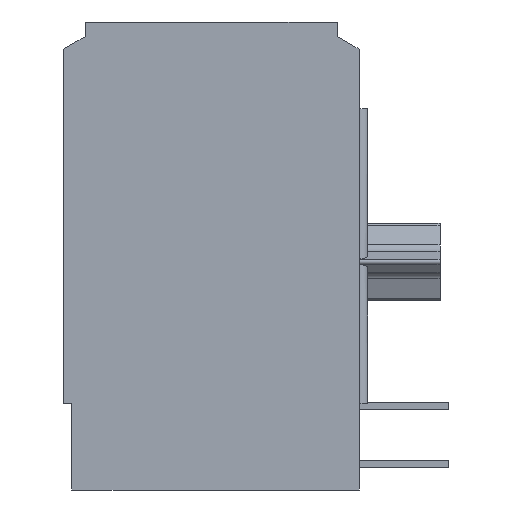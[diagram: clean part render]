
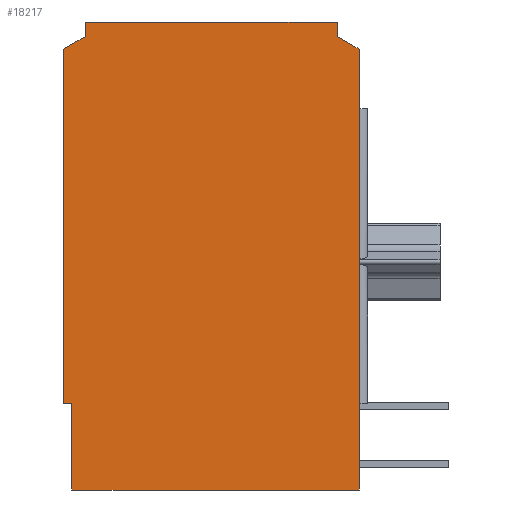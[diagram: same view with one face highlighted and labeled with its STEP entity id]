
A CAD part, left-side view. The second image highlights one B-rep face of the part: STEP entity #18217.
In plain terms, the highlighted planar face has unit normal (-1, 0, 0).
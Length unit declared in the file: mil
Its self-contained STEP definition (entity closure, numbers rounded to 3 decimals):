
#83 = DIRECTION ( 'NONE',  ( 0., 0., -1. ) ) ;
#84 = VECTOR ( 'NONE', #83, 39370.079 ) ;
#85 = CARTESIAN_POINT ( 'NONE',  ( -1150., 53., 0. ) ) ;
#86 = LINE ( 'NONE', #85, #84 ) ;
#87 = CARTESIAN_POINT ( 'NONE',  ( -1150., 53., 0. ) ) ;
#97 = CARTESIAN_POINT ( 'NONE',  ( -1150., 53., -25. ) ) ;
#145 = DIRECTION ( 'NONE',  ( 0., 0., 1. ) ) ;
#146 = VECTOR ( 'NONE', #145, 39370.079 ) ;
#147 = CARTESIAN_POINT ( 'NONE',  ( -1150., 527., 0. ) ) ;
#148 = LINE ( 'NONE', #147, #146 ) ;
#169 = DIRECTION ( 'NONE',  ( 0., -1., 0. ) ) ;
#170 = VECTOR ( 'NONE', #169, 39370.079 ) ;
#171 = CARTESIAN_POINT ( 'NONE',  ( -1150., 271., 0. ) ) ;
#172 = LINE ( 'NONE', #171, #170 ) ;
#244 = DIRECTION ( 'NONE',  ( 0., 0., 1. ) ) ;
#245 = VECTOR ( 'NONE', #244, 39370.079 ) ;
#246 = CARTESIAN_POINT ( 'NONE',  ( -1150., 512., 0. ) ) ;
#247 = LINE ( 'NONE', #246, #245 ) ;
#249 = CARTESIAN_POINT ( 'NONE',  ( -1150., 512., -810. ) ) ;
#3725 = CARTESIAN_POINT ( 'NONE',  ( -1150., 15., -810. ) ) ;
#3755 = DIRECTION ( 'NONE',  ( 0., 0., -1. ) ) ;
#3756 = DIRECTION ( 'NONE',  ( 1., 0., 0. ) ) ;
#3757 = CARTESIAN_POINT ( 'NONE',  ( -1150., 271., 0. ) ) ;
#3759 = AXIS2_PLACEMENT_3D ( 'NONE', #3757, #3756, #3755 ) ;
#3760 = PLANE ( 'NONE',  #3759 ) ;
#3761 = FACE_OUTER_BOUND ( 'NONE', #18273, .T. ) ;
#3762 = DIRECTION ( 'NONE',  ( 0., -0.866, -0.5 ) ) ;
#3763 = VECTOR ( 'NONE', #3762, 39370.079 ) ;
#3764 = CARTESIAN_POINT ( 'NONE',  ( -1150., 53., -25. ) ) ;
#3765 = LINE ( 'NONE', #3764, #3763 ) ;
#3766 = CARTESIAN_POINT ( 'NONE',  ( -1150., 15., -46.939 ) ) ;
#3803 = DIRECTION ( 'NONE',  ( 0., 1., 0. ) ) ;
#3804 = VECTOR ( 'NONE', #3803, 39370.079 ) ;
#3805 = CARTESIAN_POINT ( 'NONE',  ( -1150., 15., -810. ) ) ;
#3811 = LINE ( 'NONE', #3805, #3804 ) ;
#3834 = DIRECTION ( 'NONE',  ( 0., 0., -1. ) ) ;
#3835 = VECTOR ( 'NONE', #3834, 39370.079 ) ;
#3836 = CARTESIAN_POINT ( 'NONE',  ( -1150., 15., -46.939 ) ) ;
#3840 = LINE ( 'NONE', #3836, #3835 ) ;
#10153 = CARTESIAN_POINT ( 'NONE',  ( -1150., 489., -25. ) ) ;
#10154 = DIRECTION ( 'NONE',  ( 0., -0.866, 0.5 ) ) ;
#10155 = VECTOR ( 'NONE', #10154, 39370.079 ) ;
#10156 = CARTESIAN_POINT ( 'NONE',  ( -1150., 527., -46.939 ) ) ;
#10157 = LINE ( 'NONE', #10156, #10155 ) ;
#10159 = CARTESIAN_POINT ( 'NONE',  ( -1150., 527., -46.939 ) ) ;
#10382 = CARTESIAN_POINT ( 'NONE',  ( -1150., 489., 0. ) ) ;
#10383 = DIRECTION ( 'NONE',  ( 0., 0., 1. ) ) ;
#10384 = VECTOR ( 'NONE', #10383, 39370.079 ) ;
#10385 = CARTESIAN_POINT ( 'NONE',  ( -1150., 489., -25. ) ) ;
#10389 = LINE ( 'NONE', #10385, #10384 ) ;
#10843 = CARTESIAN_POINT ( 'NONE',  ( -1150., 512., -660. ) ) ;
#10896 = LINE ( 'NONE', #10959, #10958 ) ;
#10956 = CARTESIAN_POINT ( 'NONE',  ( -1150., 527., -660. ) ) ;
#10957 = DIRECTION ( 'NONE',  ( 0., 1., 0. ) ) ;
#10958 = VECTOR ( 'NONE', #10957, 39370.079 ) ;
#10959 = CARTESIAN_POINT ( 'NONE',  ( -1150., 512., -660. ) ) ;
#15565 = VERTEX_POINT ( 'NONE', #10159 ) ;
#15568 = EDGE_CURVE ( 'NONE', #15565, #15569, #10157, .T. ) ;
#15569 = VERTEX_POINT ( 'NONE', #10153 ) ;
#15729 = EDGE_CURVE ( 'NONE', #15569, #15730, #10389, .T. ) ;
#15730 = VERTEX_POINT ( 'NONE', #10382 ) ;
#16135 = VERTEX_POINT ( 'NONE', #10843 ) ;
#16190 = EDGE_CURVE ( 'NONE', #16135, #16191, #10896, .T. ) ;
#16191 = VERTEX_POINT ( 'NONE', #10956 ) ;
#16974 = VERTEX_POINT ( 'NONE', #97 ) ;
#16980 = VERTEX_POINT ( 'NONE', #87 ) ;
#16982 = EDGE_CURVE ( 'NONE', #16980, #16974, #86, .T. ) ;
#17038 = EDGE_CURVE ( 'NONE', #16191, #15565, #148, .T. ) ;
#17105 = EDGE_CURVE ( 'NONE', #15730, #16980, #172, .T. ) ;
#17143 = VERTEX_POINT ( 'NONE', #249 ) ;
#17146 = EDGE_CURVE ( 'NONE', #17143, #16135, #247, .T. ) ;
#18196 = VERTEX_POINT ( 'NONE', #3725 ) ;
#18197 = ORIENTED_EDGE ( 'NONE', *, *, #18216, .F. ) ;
#18198 = ORIENTED_EDGE ( 'NONE', *, *, #16982, .F. ) ;
#18199 = ORIENTED_EDGE ( 'NONE', *, *, #17105, .F. ) ;
#18200 = ORIENTED_EDGE ( 'NONE', *, *, #15729, .F. ) ;
#18201 = ORIENTED_EDGE ( 'NONE', *, *, #15568, .F. ) ;
#18202 = ORIENTED_EDGE ( 'NONE', *, *, #17038, .F. ) ;
#18203 = ORIENTED_EDGE ( 'NONE', *, *, #16190, .F. ) ;
#18204 = ORIENTED_EDGE ( 'NONE', *, *, #17146, .F. ) ;
#18212 = VERTEX_POINT ( 'NONE', #3766 ) ;
#18216 = EDGE_CURVE ( 'NONE', #16974, #18212, #3765, .T. ) ;
#18217 = ADVANCED_FACE ( 'NONE', ( #3761 ), #3760, .F. ) ;
#18260 = ORIENTED_EDGE ( 'NONE', *, *, #18261, .F. ) ;
#18261 = EDGE_CURVE ( 'NONE', #18196, #17143, #3811, .T. ) ;
#18273 = EDGE_LOOP ( 'NONE', ( #18274, #18197, #18198, #18199, #18200, #18201, #18202, #18203, #18204, #18260 ) ) ;
#18274 = ORIENTED_EDGE ( 'NONE', *, *, #18275, .F. ) ;
#18275 = EDGE_CURVE ( 'NONE', #18212, #18196, #3840, .T. ) ;
